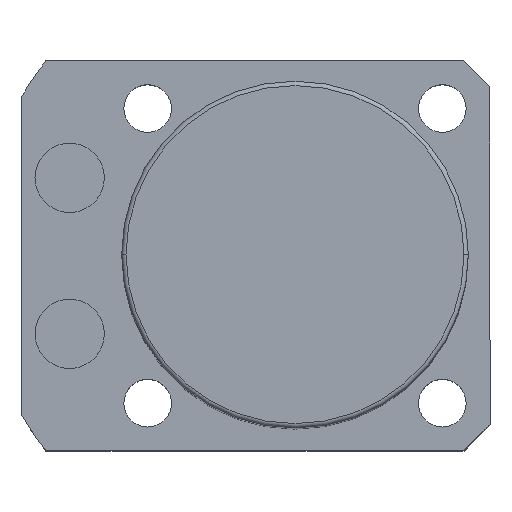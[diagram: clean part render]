
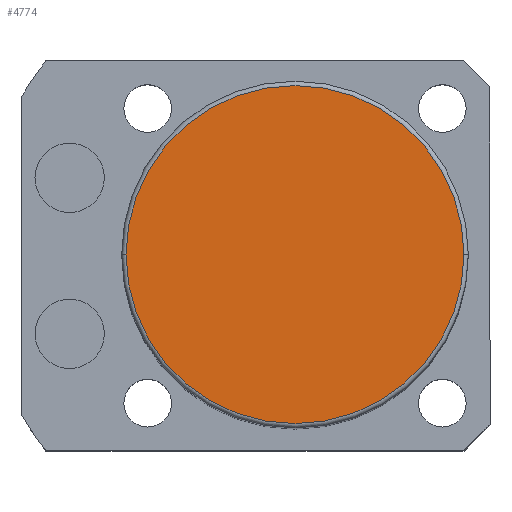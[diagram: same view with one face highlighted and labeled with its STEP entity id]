
A CAD part, top view. The second image highlights one B-rep face of the part: STEP entity #4774.
In plain terms, the highlighted planar face has unit normal (0, 0, 1).
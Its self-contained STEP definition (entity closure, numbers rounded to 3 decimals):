
#107 = CIRCLE ( 'NONE', #1954, 19.5 ) ;
#324 = DIRECTION ( 'NONE',  ( 0., 0., 1. ) ) ;
#432 = CARTESIAN_POINT ( 'NONE',  ( 19.5, 0., 93.5 ) ) ;
#537 = PLANE ( 'NONE',  #3718 ) ;
#599 = EDGE_CURVE ( 'NONE', #4873, #5344, #107, .T. ) ;
#994 = CARTESIAN_POINT ( 'NONE',  ( 0., 0., 93.5 ) ) ;
#1214 = FACE_OUTER_BOUND ( 'NONE', #4531, .T. ) ;
#1694 = DIRECTION ( 'NONE',  ( 1., 0., 0. ) ) ;
#1895 = DIRECTION ( 'NONE',  ( 0., 0., 1. ) ) ;
#1954 = AXIS2_PLACEMENT_3D ( 'NONE', #5269, #324, #1694 ) ;
#2486 = AXIS2_PLACEMENT_3D ( 'NONE', #994, #2945, #5676 ) ;
#2491 = ORIENTED_EDGE ( 'NONE', *, *, #4758, .T. ) ;
#2861 = CIRCLE ( 'NONE', #2486, 19.5 ) ;
#2945 = DIRECTION ( 'NONE',  ( 0., 0., 1. ) ) ;
#2968 = ORIENTED_EDGE ( 'NONE', *, *, #599, .T. ) ;
#3384 = CARTESIAN_POINT ( 'NONE',  ( 0., 0., 93.5 ) ) ;
#3695 = DIRECTION ( 'NONE',  ( 1., 0., 0. ) ) ;
#3718 = AXIS2_PLACEMENT_3D ( 'NONE', #3384, #1895, #3695 ) ;
#3960 = CARTESIAN_POINT ( 'NONE',  ( -19.5, 0., 93.5 ) ) ;
#4531 = EDGE_LOOP ( 'NONE', ( #2968, #2491 ) ) ;
#4758 = EDGE_CURVE ( 'NONE', #5344, #4873, #2861, .T. ) ;
#4774 = ADVANCED_FACE ( 'NONE', ( #1214 ), #537, .T. ) ;
#4873 = VERTEX_POINT ( 'NONE', #432 ) ;
#5269 = CARTESIAN_POINT ( 'NONE',  ( 0., 0., 93.5 ) ) ;
#5344 = VERTEX_POINT ( 'NONE', #3960 ) ;
#5676 = DIRECTION ( 'NONE',  ( 1., 0., 0. ) ) ;
